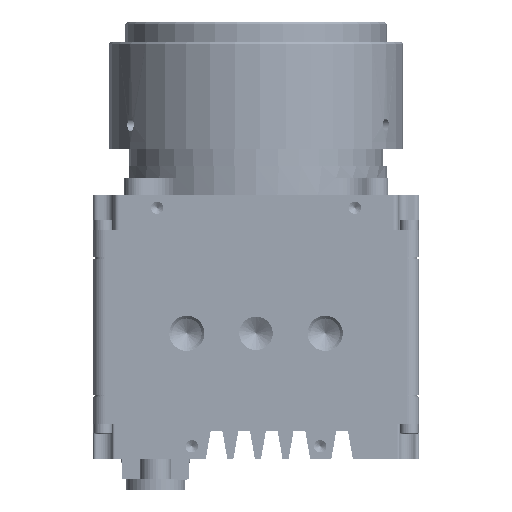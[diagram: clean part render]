
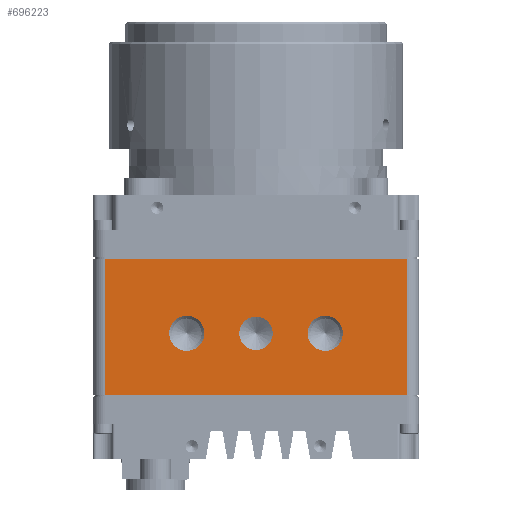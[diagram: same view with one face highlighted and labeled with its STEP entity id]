
A CAD part, front view. The second image highlights one B-rep face of the part: STEP entity #696223.
In plain terms, the highlighted planar face has unit normal (0, -1, 0).
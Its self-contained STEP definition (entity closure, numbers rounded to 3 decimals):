
#3963 = CIRCLE ( 'NONE', #707394, 3.378 ) ;
#6419 = EDGE_CURVE ( 'NONE', #105886, #89353, #318134, .T. ) ;
#10191 = VERTEX_POINT ( 'NONE', #638489 ) ;
#16442 = VERTEX_POINT ( 'NONE', #425115 ) ;
#24366 = VERTEX_POINT ( 'NONE', #691354 ) ;
#30859 = DIRECTION ( 'NONE',  ( 0., 0., 1. ) ) ;
#37863 = CARTESIAN_POINT ( 'NONE',  ( 30.48, -26.67, -27.94 ) ) ;
#41097 = AXIS2_PLACEMENT_3D ( 'NONE', #589191, #694083, #311273 ) ;
#42162 = EDGE_CURVE ( 'NONE', #687923, #123269, #103418, .T. ) ;
#45553 = AXIS2_PLACEMENT_3D ( 'NONE', #271806, #335302, #664501 ) ;
#56802 = CARTESIAN_POINT ( 'NONE',  ( 33.02, -26.67, -27.94 ) ) ;
#63968 = FACE_BOUND ( 'NONE', #149657, .T. ) ;
#70576 = EDGE_CURVE ( 'NONE', #10191, #687923, #88355, .T. ) ;
#86599 = DIRECTION ( 'NONE',  ( 0., -1., 0. ) ) ;
#88355 = LINE ( 'NONE', #199734, #96812 ) ;
#89353 = VERTEX_POINT ( 'NONE', #242099 ) ;
#96812 = VECTOR ( 'NONE', #473251, 1000. ) ;
#99046 = EDGE_LOOP ( 'NONE', ( #315357, #601769 ) ) ;
#103418 = LINE ( 'NONE', #178131, #461215 ) ;
#105886 = VERTEX_POINT ( 'NONE', #209285 ) ;
#111090 = VECTOR ( 'NONE', #292999, 1000. ) ;
#114291 = DIRECTION ( 'NONE',  ( 0., -1., 0. ) ) ;
#117545 = CARTESIAN_POINT ( 'NONE',  ( 30.48, -26.67, -0.127 ) ) ;
#123269 = VERTEX_POINT ( 'NONE', #157858 ) ;
#139090 = CARTESIAN_POINT ( 'NONE',  ( 0., -26.67, -15.24 ) ) ;
#141527 = DIRECTION ( 'NONE',  ( 0., 0., 1. ) ) ;
#144382 = EDGE_CURVE ( 'NONE', #615698, #16442, #701161, .T. ) ;
#149657 = EDGE_LOOP ( 'NONE', ( #228593, #619289 ) ) ;
#150818 = LINE ( 'NONE', #37863, #657010 ) ;
#157858 = CARTESIAN_POINT ( 'NONE',  ( 30.48, -26.67, -27.813 ) ) ;
#159117 = CARTESIAN_POINT ( 'NONE',  ( -30.48, -26.67, -27.813 ) ) ;
#161852 = CARTESIAN_POINT ( 'NONE',  ( 0., -26.67, -11.862 ) ) ;
#167943 = DIRECTION ( 'NONE',  ( 0., 0., 1. ) ) ;
#178131 = CARTESIAN_POINT ( 'NONE',  ( 30.48, -26.67, -27.813 ) ) ;
#184386 = ORIENTED_EDGE ( 'NONE', *, *, #285433, .F. ) ;
#184759 = EDGE_CURVE ( 'NONE', #24366, #357322, #226831, .T. ) ;
#194450 = ORIENTED_EDGE ( 'NONE', *, *, #309812, .T. ) ;
#194851 = FACE_BOUND ( 'NONE', #99046, .T. ) ;
#196487 = DIRECTION ( 'NONE',  ( 0., 0., 1. ) ) ;
#199734 = CARTESIAN_POINT ( 'NONE',  ( -30.48, -26.67, -27.94 ) ) ;
#209285 = CARTESIAN_POINT ( 'NONE',  ( -14., -26.67, -18.79 ) ) ;
#209737 = AXIS2_PLACEMENT_3D ( 'NONE', #706337, #703957, #30859 ) ;
#226831 = CIRCLE ( 'NONE', #41097, 3.55 ) ;
#228593 = ORIENTED_EDGE ( 'NONE', *, *, #184759, .F. ) ;
#241973 = LINE ( 'NONE', #683195, #111090 ) ;
#242099 = CARTESIAN_POINT ( 'NONE',  ( -14., -26.67, -11.69 ) ) ;
#251995 = EDGE_CURVE ( 'NONE', #357322, #24366, #514080, .T. ) ;
#260245 = EDGE_CURVE ( 'NONE', #10191, #479692, #241973, .T. ) ;
#264900 = FACE_OUTER_BOUND ( 'NONE', #280774, .T. ) ;
#268924 = DIRECTION ( 'NONE',  ( 0., 0., -1. ) ) ;
#271806 = CARTESIAN_POINT ( 'NONE',  ( -14., -26.67, -15.24 ) ) ;
#280774 = EDGE_LOOP ( 'NONE', ( #684944, #194450, #611504, #618390 ) ) ;
#285433 = EDGE_CURVE ( 'NONE', #89353, #105886, #612293, .T. ) ;
#292999 = DIRECTION ( 'NONE',  ( 1., 0., 0. ) ) ;
#298025 = DIRECTION ( 'NONE',  ( 0., -1., 0. ) ) ;
#309812 = EDGE_CURVE ( 'NONE', #123269, #479692, #150818, .T. ) ;
#311273 = DIRECTION ( 'NONE',  ( 0., 0., 1. ) ) ;
#315357 = ORIENTED_EDGE ( 'NONE', *, *, #144382, .F. ) ;
#318134 = CIRCLE ( 'NONE', #491943, 3.55 ) ;
#335302 = DIRECTION ( 'NONE',  ( 0., -1., 0. ) ) ;
#349122 = DIRECTION ( 'NONE',  ( 1., 0., 0. ) ) ;
#354894 = EDGE_LOOP ( 'NONE', ( #184386, #681562 ) ) ;
#357322 = VERTEX_POINT ( 'NONE', #587816 ) ;
#397402 = CARTESIAN_POINT ( 'NONE',  ( 0., -26.67, -15.24 ) ) ;
#413382 = FACE_BOUND ( 'NONE', #354894, .T. ) ;
#425115 = CARTESIAN_POINT ( 'NONE',  ( 0., -26.67, -18.618 ) ) ;
#461215 = VECTOR ( 'NONE', #349122, 1000. ) ;
#473251 = DIRECTION ( 'NONE',  ( 0., 0., -1. ) ) ;
#479618 = CARTESIAN_POINT ( 'NONE',  ( -14., -26.67, -15.24 ) ) ;
#479692 = VERTEX_POINT ( 'NONE', #117545 ) ;
#491091 = PLANE ( 'NONE',  #509587 ) ;
#491943 = AXIS2_PLACEMENT_3D ( 'NONE', #479618, #86599, #196487 ) ;
#509587 = AXIS2_PLACEMENT_3D ( 'NONE', #56802, #593581, #268924 ) ;
#514080 = CIRCLE ( 'NONE', #209737, 3.55 ) ;
#540422 = DIRECTION ( 'NONE',  ( 0., 0., 1. ) ) ;
#578594 = AXIS2_PLACEMENT_3D ( 'NONE', #139090, #298025, #141527 ) ;
#587816 = CARTESIAN_POINT ( 'NONE',  ( 14., -26.67, -18.79 ) ) ;
#589191 = CARTESIAN_POINT ( 'NONE',  ( 14., -26.67, -15.24 ) ) ;
#593581 = DIRECTION ( 'NONE',  ( 0., 1., 0. ) ) ;
#601769 = ORIENTED_EDGE ( 'NONE', *, *, #688584, .F. ) ;
#611504 = ORIENTED_EDGE ( 'NONE', *, *, #260245, .F. ) ;
#612293 = CIRCLE ( 'NONE', #45553, 3.55 ) ;
#615698 = VERTEX_POINT ( 'NONE', #161852 ) ;
#618390 = ORIENTED_EDGE ( 'NONE', *, *, #70576, .T. ) ;
#619289 = ORIENTED_EDGE ( 'NONE', *, *, #251995, .F. ) ;
#638489 = CARTESIAN_POINT ( 'NONE',  ( -30.48, -26.67, -0.127 ) ) ;
#657010 = VECTOR ( 'NONE', #540422, 1000. ) ;
#664501 = DIRECTION ( 'NONE',  ( 0., 0., 1. ) ) ;
#681562 = ORIENTED_EDGE ( 'NONE', *, *, #6419, .F. ) ;
#683195 = CARTESIAN_POINT ( 'NONE',  ( 30.48, -26.67, -0.127 ) ) ;
#684944 = ORIENTED_EDGE ( 'NONE', *, *, #42162, .T. ) ;
#687923 = VERTEX_POINT ( 'NONE', #159117 ) ;
#688584 = EDGE_CURVE ( 'NONE', #16442, #615698, #3963, .T. ) ;
#691354 = CARTESIAN_POINT ( 'NONE',  ( 14., -26.67, -11.69 ) ) ;
#694083 = DIRECTION ( 'NONE',  ( 0., -1., 0. ) ) ;
#696223 = ADVANCED_FACE ( 'NONE', ( #413382, #63968, #194851, #264900 ), #491091, .F. ) ;
#701161 = CIRCLE ( 'NONE', #578594, 3.378 ) ;
#703957 = DIRECTION ( 'NONE',  ( 0., -1., 0. ) ) ;
#706337 = CARTESIAN_POINT ( 'NONE',  ( 14., -26.67, -15.24 ) ) ;
#707394 = AXIS2_PLACEMENT_3D ( 'NONE', #397402, #114291, #167943 ) ;
